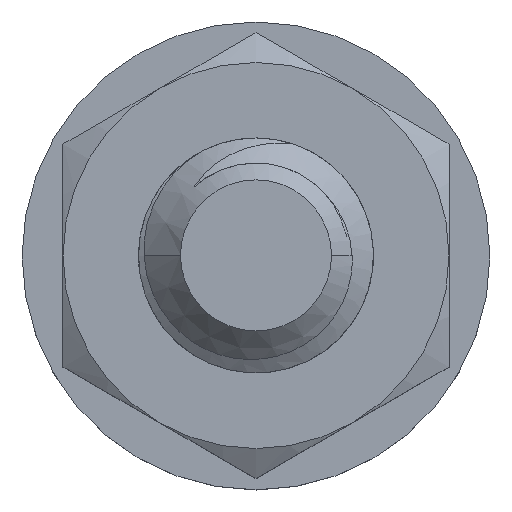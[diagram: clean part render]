
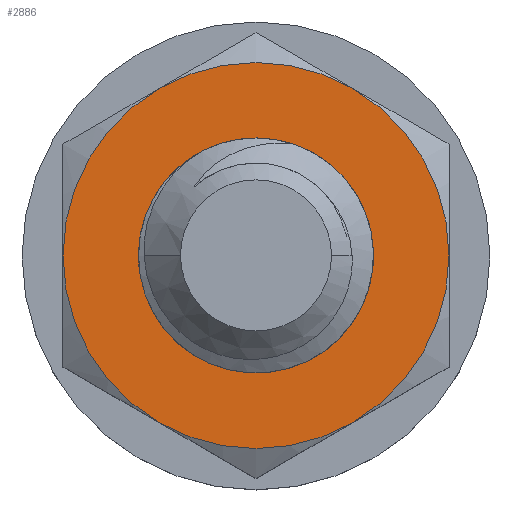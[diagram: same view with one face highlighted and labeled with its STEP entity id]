
A CAD part, top view. The second image highlights one B-rep face of the part: STEP entity #2886.
In plain terms, the highlighted planar face has unit normal (0, 0, 1).
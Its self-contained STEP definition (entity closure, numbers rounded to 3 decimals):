
#178=CARTESIAN_POINT('',(0.,0.,-1.087));
#179=DIRECTION('',(0.,0.,-1.));
#180=DIRECTION('',(-0.241,0.97,0.));
#181=AXIS2_PLACEMENT_3D('',#178,#179,#180);
#223=CARTESIAN_POINT('',(0.,0.,-1.087));
#224=DIRECTION('',(0.,0.,-1.));
#225=DIRECTION('',(-1.,0.,0.));
#226=AXIS2_PLACEMENT_3D('',#223,#224,#225);
#228=CARTESIAN_POINT('',(0.,0.,-1.087));
#229=DIRECTION('',(0.,0.,1.));
#230=DIRECTION('',(1.,0.,0.));
#231=AXIS2_PLACEMENT_3D('',#228,#229,#230);
#233=CARTESIAN_POINT('',(0.,0.,-1.087));
#234=DIRECTION('',(0.,0.,1.));
#235=DIRECTION('',(0.5,-0.866,0.));
#236=AXIS2_PLACEMENT_3D('',#233,#234,#235);
#238=CARTESIAN_POINT('',(0.,0.,-1.087));
#239=DIRECTION('',(0.,0.,1.));
#240=DIRECTION('',(-1.,0.,0.));
#241=AXIS2_PLACEMENT_3D('',#238,#239,#240);
#243=CARTESIAN_POINT('',(0.,0.,-1.087));
#244=DIRECTION('',(0.,0.,1.));
#245=DIRECTION('',(-0.5,0.866,0.));
#246=AXIS2_PLACEMENT_3D('',#243,#244,#245);
#552=CARTESIAN_POINT('',(0.,0.,-1.087));
#553=DIRECTION('',(0.,0.,1.));
#554=DIRECTION('',(-0.241,0.97,0.));
#555=AXIS2_PLACEMENT_3D('',#552,#553,#554);
#2267=CARTESIAN_POINT('',(0.,0.,-1.087));
#2268=DIRECTION('',(0.,0.,1.));
#2269=DIRECTION('',(0.5,0.866,0.));
#2270=AXIS2_PLACEMENT_3D('',#2267,#2268,#2269);
#2310=CARTESIAN_POINT('',(0.,0.,-1.087));
#2311=DIRECTION('',(0.,0.,1.));
#2312=DIRECTION('',(-0.5,-0.866,0.));
#2313=AXIS2_PLACEMENT_3D('',#2310,#2311,#2312);
#2532=CARTESIAN_POINT('',(-0.344,1.38,-1.087));
#2533=CARTESIAN_POINT('',(-1.219,0.733,-1.087));
#2534=VERTEX_POINT('',#2532);
#2535=VERTEX_POINT('',#2533);
#2552=CARTESIAN_POINT('',(-1.168,2.024,-1.087));
#2553=CARTESIAN_POINT('',(-2.337,0.,-1.087));
#2554=VERTEX_POINT('',#2552);
#2555=VERTEX_POINT('',#2553);
#2556=CARTESIAN_POINT('',(-1.168,-2.024,-1.087));
#2557=VERTEX_POINT('',#2556);
#2558=CARTESIAN_POINT('',(1.168,-2.024,-1.087));
#2559=CARTESIAN_POINT('',(2.337,0.,-1.087));
#2560=VERTEX_POINT('',#2558);
#2561=VERTEX_POINT('',#2559);
#2562=CARTESIAN_POINT('',(1.168,2.024,-1.087));
#2563=VERTEX_POINT('',#2562);
#2602=CARTESIAN_POINT('',(-1.422,0.,-1.087));
#2603=VERTEX_POINT('',#2602);
#2861=CARTESIAN_POINT('',(0.,0.,-1.087));
#2862=DIRECTION('',(0.,0.,1.));
#2863=DIRECTION('',(1.,0.,0.));
#2864=AXIS2_PLACEMENT_3D('',#2861,#2862,#2863);
#2865=PLANE('',#2864);
#2867=ORIENTED_EDGE('',*,*,#2866,.F.);
#2869=ORIENTED_EDGE('',*,*,#2868,.F.);
#2871=ORIENTED_EDGE('',*,*,#2870,.F.);
#2873=ORIENTED_EDGE('',*,*,#2872,.F.);
#2875=ORIENTED_EDGE('',*,*,#2874,.F.);
#2877=ORIENTED_EDGE('',*,*,#2876,.F.);
#2878=EDGE_LOOP('',(#2867,#2869,#2871,#2873,#2875,#2877));
#2879=FACE_OUTER_BOUND('',#2878,.F.);
#2880=ORIENTED_EDGE('',*,*,#2820,.F.);
#2881=ORIENTED_EDGE('',*,*,#2808,.F.);
#2883=ORIENTED_EDGE('',*,*,#2882,.T.);
#2884=EDGE_LOOP('',(#2880,#2881,#2883));
#2885=FACE_BOUND('',#2884,.F.);
#2886=ADVANCED_FACE('',(#2879,#2885),#2865,.T.);
#182=CIRCLE('',#181,1.422);
#227=CIRCLE('',#226,1.422);
#232=CIRCLE('',#231,2.337);
#237=CIRCLE('',#236,2.337);
#242=CIRCLE('',#241,2.337);
#247=CIRCLE('',#246,2.337);
#556=CIRCLE('',#555,1.422);
#2271=CIRCLE('',#2270,2.337);
#2314=CIRCLE('',#2313,2.337);
#2808=EDGE_CURVE('',#2534,#2603,#182,.T.);
#2820=EDGE_CURVE('',#2603,#2535,#227,.T.);
#2866=EDGE_CURVE('',#2563,#2554,#2271,.T.);
#2868=EDGE_CURVE('',#2561,#2563,#232,.T.);
#2870=EDGE_CURVE('',#2560,#2561,#237,.T.);
#2872=EDGE_CURVE('',#2557,#2560,#2314,.T.);
#2874=EDGE_CURVE('',#2555,#2557,#242,.T.);
#2876=EDGE_CURVE('',#2554,#2555,#247,.T.);
#2882=EDGE_CURVE('',#2534,#2535,#556,.T.);
